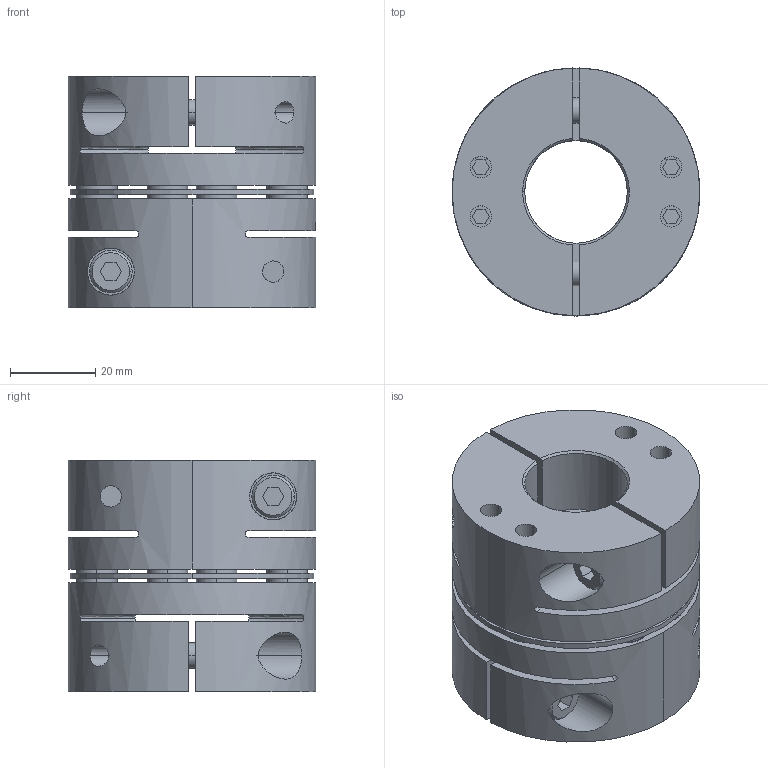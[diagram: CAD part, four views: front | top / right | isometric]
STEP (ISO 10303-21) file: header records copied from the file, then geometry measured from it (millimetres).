
FILE_DESCRIPTION((''),'2;1');
FILE_NAME('TAS-58C-24×30.stp','2022-11-14T22:25:34',(''),(''),'AutoCAD STEP 2000i','AutoCAD 2000i',', , ');
FILE_SCHEMA(('CONFIG_CONTROL_DESIGN'));
Length unit declared in the file: millimetre
Products named in the file (7): TAS-58C-22×22; 忣兜1; TA58C-22-2; CAP-M6×20; TA58C-22; TA58C-12-2; TA58C-12
Assembly tree (9 placements, depth 3):
  TAS-58C-22×22
    忣兜1
    TA58C-22-2
      CAP-M6×20
    TA58C-22
      CAP-M6×20
    TA58C-12-2
      CAP-M6×20
    TA58C-12
      CAP-M6×20
Bounding box: 58 x 58 x 54.25 mm (x, y, z)
Volume: 94047.1 mm3; surface area: 40185.5 mm2
Topology: 1 solids, 1 shells, 360 faces, 903 edges, 645 vertices
Faces by surface type: plane 160, cylinder 148, cone 36, bspline 16
Entity records: 12875 total; most frequent: CARTESIAN_POINT 3843, DIRECTION 1936, ORIENTED_EDGE 1720, EDGE_CURVE 860, AXIS2_PLACEMENT_3D 735, VERTEX_POINT 564, VECTOR 466, LINE 466
